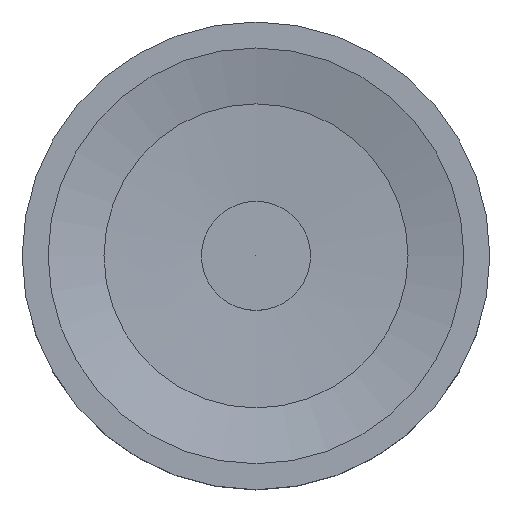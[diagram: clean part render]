
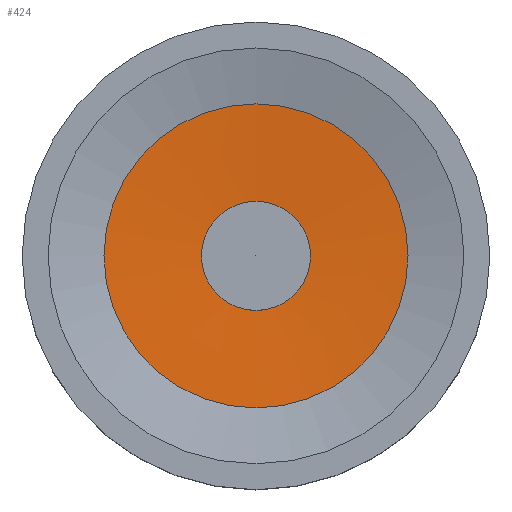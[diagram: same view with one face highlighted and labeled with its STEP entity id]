
A CAD part, top view. The second image highlights one B-rep face of the part: STEP entity #424.
In plain terms, the highlighted conical face has half-angle 86.942 degrees and reference radius 58.499 mm.
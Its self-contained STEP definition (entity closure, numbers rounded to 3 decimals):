
#248 = CONICAL_SURFACE('',#249,80.,1.342);
#249 = AXIS2_PLACEMENT_3D('',#250,#251,#252);
#250 = CARTESIAN_POINT('',(0.,0.,61.));
#251 = DIRECTION('',(0.,0.,1.));
#252 = DIRECTION('',(0.,-1.,0.));
#320 = VERTEX_POINT('',#321);
#321 = CARTESIAN_POINT('',(0.,-58.499,56.));
#342 = EDGE_CURVE('',#320,#320,#343,.T.);
#343 = SURFACE_CURVE('',#344,(#349,#356),.PCURVE_S1.);
#344 = CIRCLE('',#345,58.499);
#345 = AXIS2_PLACEMENT_3D('',#346,#347,#348);
#346 = CARTESIAN_POINT('',(0.,0.,56.));
#347 = DIRECTION('',(0.,0.,-1.));
#348 = DIRECTION('',(0.,-1.,0.));
#349 = PCURVE('',#248,#350);
#350 = DEFINITIONAL_REPRESENTATION('',(#351),#355);
#351 = LINE('',#352,#353);
#352 = CARTESIAN_POINT('',(-0.,-5.));
#353 = VECTOR('',#354,1.);
#354 = DIRECTION('',(-1.,-0.));
#355 = ( GEOMETRIC_REPRESENTATION_CONTEXT(2) 
PARAMETRIC_REPRESENTATION_CONTEXT() REPRESENTATION_CONTEXT('2D SPACE',''
  ) );
#356 = PCURVE('',#357,#362);
#357 = CONICAL_SURFACE('',#358,58.499,1.517);
#358 = AXIS2_PLACEMENT_3D('',#359,#360,#361);
#359 = CARTESIAN_POINT('',(0.,0.,56.));
#360 = DIRECTION('',(0.,0.,1.));
#361 = DIRECTION('',(0.,-1.,0.));
#362 = DEFINITIONAL_REPRESENTATION('',(#363),#367);
#363 = LINE('',#364,#365);
#364 = CARTESIAN_POINT('',(-0.,0.));
#365 = VECTOR('',#366,1.);
#366 = DIRECTION('',(-1.,-0.));
#367 = ( GEOMETRIC_REPRESENTATION_CONTEXT(2) 
PARAMETRIC_REPRESENTATION_CONTEXT() REPRESENTATION_CONTEXT('2D SPACE',''
  ) );
#424 = ADVANCED_FACE('',(#425),#357,.F.);
#425 = FACE_BOUND('',#426,.F.);
#426 = EDGE_LOOP('',(#427,#428,#451,#478));
#427 = ORIENTED_EDGE('',*,*,#342,.T.);
#428 = ORIENTED_EDGE('',*,*,#429,.T.);
#429 = EDGE_CURVE('',#320,#430,#432,.T.);
#430 = VERTEX_POINT('',#431);
#431 = CARTESIAN_POINT('',(0.,-21.,53.997));
#432 = SEAM_CURVE('',#433,(#437,#444),.PCURVE_S1.);
#433 = LINE('',#434,#435);
#434 = CARTESIAN_POINT('',(0.,-58.499,56.));
#435 = VECTOR('',#436,1.);
#436 = DIRECTION('',(0.,0.999,-0.053));
#437 = PCURVE('',#357,#438);
#438 = DEFINITIONAL_REPRESENTATION('',(#439),#443);
#439 = LINE('',#440,#441);
#440 = CARTESIAN_POINT('',(-0.,-0.));
#441 = VECTOR('',#442,1.);
#442 = DIRECTION('',(-0.,-1.));
#443 = ( GEOMETRIC_REPRESENTATION_CONTEXT(2) 
PARAMETRIC_REPRESENTATION_CONTEXT() REPRESENTATION_CONTEXT('2D SPACE',''
  ) );
#444 = PCURVE('',#357,#445);
#445 = DEFINITIONAL_REPRESENTATION('',(#446),#450);
#446 = LINE('',#447,#448);
#447 = CARTESIAN_POINT('',(-6.283,-0.));
#448 = VECTOR('',#449,1.);
#449 = DIRECTION('',(-0.,-1.));
#450 = ( GEOMETRIC_REPRESENTATION_CONTEXT(2) 
PARAMETRIC_REPRESENTATION_CONTEXT() REPRESENTATION_CONTEXT('2D SPACE',''
  ) );
#451 = ORIENTED_EDGE('',*,*,#452,.F.);
#452 = EDGE_CURVE('',#430,#430,#453,.T.);
#453 = SURFACE_CURVE('',#454,(#459,#466),.PCURVE_S1.);
#454 = CIRCLE('',#455,21.);
#455 = AXIS2_PLACEMENT_3D('',#456,#457,#458);
#456 = CARTESIAN_POINT('',(0.,0.,53.997));
#457 = DIRECTION('',(0.,0.,-1.));
#458 = DIRECTION('',(0.,-1.,0.));
#459 = PCURVE('',#357,#460);
#460 = DEFINITIONAL_REPRESENTATION('',(#461),#465);
#461 = LINE('',#462,#463);
#462 = CARTESIAN_POINT('',(-0.,-2.003));
#463 = VECTOR('',#464,1.);
#464 = DIRECTION('',(-1.,-0.));
#465 = ( GEOMETRIC_REPRESENTATION_CONTEXT(2) 
PARAMETRIC_REPRESENTATION_CONTEXT() REPRESENTATION_CONTEXT('2D SPACE',''
  ) );
#466 = PCURVE('',#467,#472);
#467 = CYLINDRICAL_SURFACE('',#468,21.);
#468 = AXIS2_PLACEMENT_3D('',#469,#470,#471);
#469 = CARTESIAN_POINT('',(0.,0.,53.997));
#470 = DIRECTION('',(0.,0.,1.));
#471 = DIRECTION('',(0.,-1.,0.));
#472 = DEFINITIONAL_REPRESENTATION('',(#473),#477);
#473 = LINE('',#474,#475);
#474 = CARTESIAN_POINT('',(-0.,0.));
#475 = VECTOR('',#476,1.);
#476 = DIRECTION('',(-1.,0.));
#477 = ( GEOMETRIC_REPRESENTATION_CONTEXT(2) 
PARAMETRIC_REPRESENTATION_CONTEXT() REPRESENTATION_CONTEXT('2D SPACE',''
  ) );
#478 = ORIENTED_EDGE('',*,*,#429,.F.);
